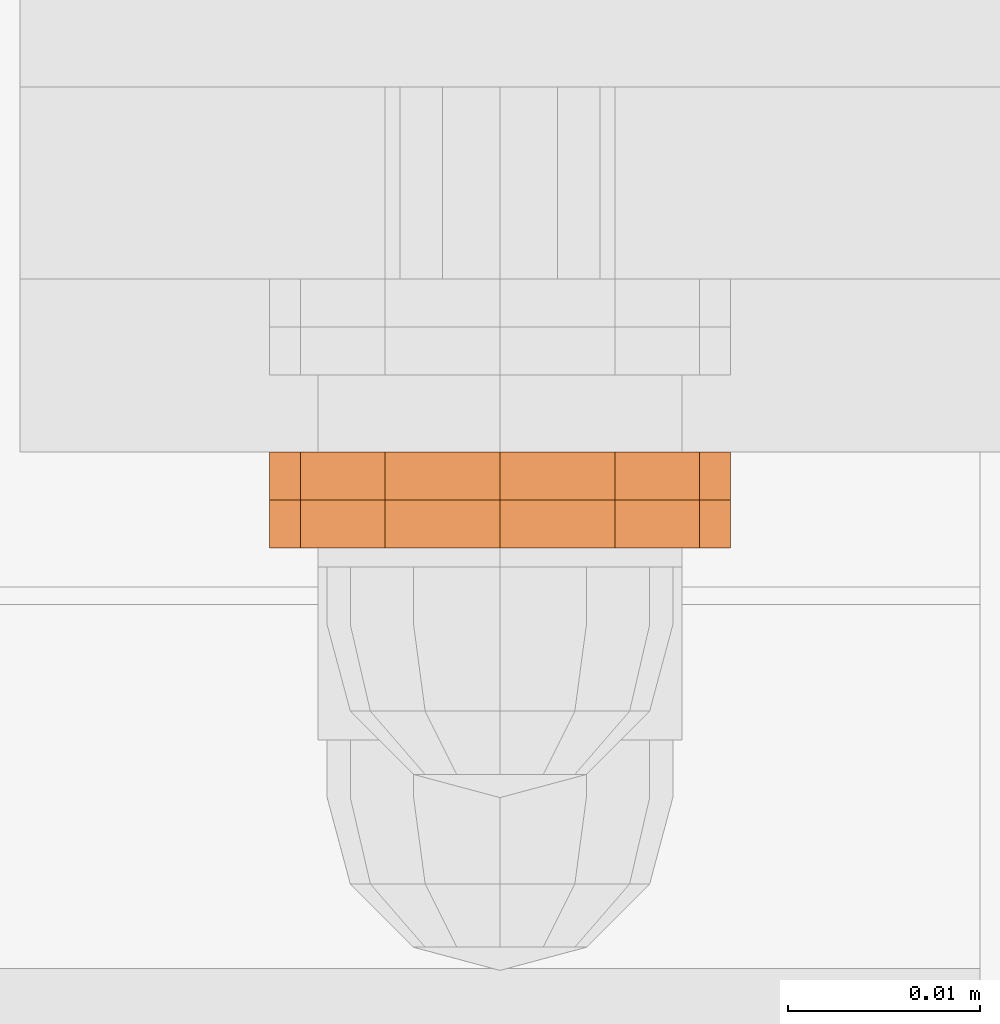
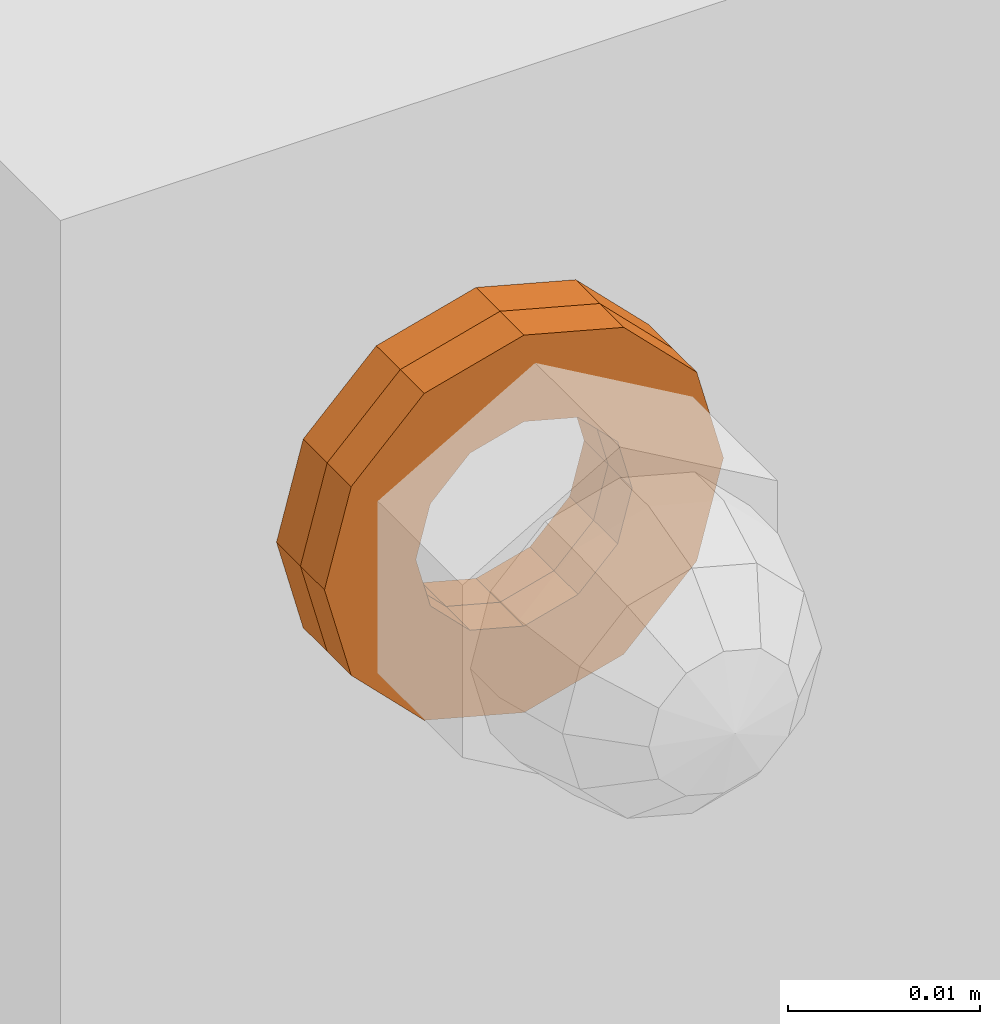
# One storey, part 154 of 162: 2 proxies.
"""IFC2X3 building model written with IfcOpenShell, lengths in millimetres."""

from ifc_helpers import new_model, entity, si_unit, converted_unit, origin_with_axes, place, context, project, spatial, faceted_brep, material, element, save


model = new_model("IFC2X3")

# Units and contexts
model_context = context("Model", 3, precision=1e-09, world=origin_with_axes())
ifc_project = project(units=[si_unit("LENGTHUNIT", "METRE", prefix="MILLI"), si_unit("AREAUNIT", "SQUARE_METRE"), si_unit("VOLUMEUNIT", "CUBIC_METRE"), converted_unit("PLANEANGLEUNIT", "DEGREE", entity("IfcPlaneAngleMeasure", 0.01745329), si_unit("PLANEANGLEUNIT", "RADIAN"), dimensions=[0, 0, 0, 0, 0, 0, 0])], contexts=[model_context])

# Site, building, storey
site_placement = place(None, origin_with_axes())
site = spatial("IfcSite", under=ifc_project, at=site_placement, Name="Hermannstra?e 1a, 60318 Frankfurt", CompositionType="ELEMENT")
building_placement = place(site_placement, origin_with_axes())
building = spatial("IfcBuilding", under=site, at=building_placement, Name="Struktur 1", CompositionType="ELEMENT")
storey_placement = place(building_placement, origin_with_axes())
storey = spatial("IfcBuildingStorey", under=building, at=storey_placement, Name="Default Storey", CompositionType="ELEMENT", Elevation=0.0)

# Proxies
ifc_material_1 = material(Name="A4")
proxy_1_placement = place(None, origin_with_axes())
element("IfcBuildingElementProxy", 1, at=proxy_1_placement, inside=storey, material=ifc_material_1, ObjectType="-", context=model_context, shape_type="Brep", body=[
    faceted_brep([(5437.917767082, 2705.610081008, 15355.999), (5437.917767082, 2708.110081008, 15355.999), (5442.310071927, 2708.110081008, 15351.606695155), (5442.310071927, 2705.610081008, 15351.606695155), (5448.310071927, 2705.610081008, 15349.999), (5454.310071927, 2705.610081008, 15351.606695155), (5458.702376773, 2705.610081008, 15355.999), (5460.310071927, 2705.610081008, 15361.999), (5458.702376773, 2705.610081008, 15367.999), (5454.310071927, 2705.610081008, 15372.391304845), (5448.310071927, 2705.610081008, 15373.999), (5442.310071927, 2705.610081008, 15372.391304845), (5437.917767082, 2705.610081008, 15367.999), (5436.310071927, 2705.610081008, 15361.999), (5451.560071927, 2705.610081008, 15356.369834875), (5448.310071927, 2705.610081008, 15355.499), (5445.060071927, 2705.610081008, 15356.369834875), (5442.680906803, 2705.610081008, 15358.749), (5441.810071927, 2705.610081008, 15361.999), (5442.680906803, 2705.610081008, 15365.249), (5445.060071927, 2705.610081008, 15367.628165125), (5448.310071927, 2705.610081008, 15368.499), (5451.560071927, 2705.610081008, 15367.628165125), (5453.939237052, 2705.610081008, 15365.249), (5454.810071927, 2705.610081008, 15361.999), (5453.939237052, 2705.610081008, 15358.749), (5436.310071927, 2708.110081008, 15361.999), (5437.917767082, 2708.110081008, 15367.999), (5442.310071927, 2708.110081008, 15372.391304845), (5448.310071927, 2708.110081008, 15373.999), (5454.310071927, 2708.110081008, 15372.391304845), (5458.702376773, 2708.110081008, 15367.999), (5460.310071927, 2708.110081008, 15361.999), (5458.702376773, 2708.110081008, 15355.999), (5454.310071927, 2708.110081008, 15351.606695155), (5448.310071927, 2708.110081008, 15349.999), (5441.810071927, 2708.110081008, 15361.999), (5442.680906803, 2708.110081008, 15358.749), (5445.060071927, 2708.110081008, 15356.369834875), (5448.310071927, 2708.110081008, 15355.499), (5451.560071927, 2708.110081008, 15356.369834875), (5453.939237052, 2708.110081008, 15358.749), (5454.810071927, 2708.110081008, 15361.999), (5453.939237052, 2708.110081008, 15365.249), (5451.560071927, 2708.110081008, 15367.628165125), (5448.310071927, 2708.110081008, 15368.499), (5445.060071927, 2708.110081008, 15367.628165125), (5442.680906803, 2708.110081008, 15365.249)], [[[0, 1, 2, 3]], [[3, 4, 5, 6, 7, 8, 9, 10, 11, 12, 13, 0], [14, 15, 16, 17, 18, 19, 20, 21, 22, 23, 24, 25]], [[1, 26, 27, 28, 29, 30, 31, 32, 33, 34, 35, 2], [36, 37, 38, 39, 40, 41, 42, 43, 44, 45, 46, 47]], [[37, 17, 16, 38]], [[1, 0, 13, 26]], [[17, 37, 36, 18]], [[38, 16, 15, 39]], [[3, 2, 35, 4]], [[26, 13, 12, 27]], [[18, 36, 47, 19]], [[39, 15, 14, 40]], [[4, 35, 34, 5]], [[27, 12, 11, 28]], [[19, 47, 46, 20]], [[40, 14, 25, 41]], [[5, 34, 33, 6]], [[24, 42, 41, 25]], [[28, 11, 10, 29]], [[20, 46, 45, 21]], [[23, 43, 42, 24]], [[6, 33, 32, 7]], [[44, 22, 21, 45]], [[43, 23, 22, 44]], [[29, 10, 9, 30]], [[7, 32, 31, 8]], [[30, 9, 8, 31]]]),
])
ifc_material_2 = material(Name="Kunststoff")
proxy_2_placement = place(None, origin_with_axes())
element("IfcBuildingElementProxy", 2, at=proxy_2_placement, inside=storey, material=ifc_material_2, ObjectType="-", context=model_context, shape_type="Brep", body=[
    faceted_brep([(5458.702376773, 2708.110081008, 15355.999), (5458.702376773, 2710.610081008, 15355.999), (5460.310071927, 2710.610081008, 15361.999), (5460.310071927, 2708.110081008, 15361.999), (5454.310071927, 2710.610081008, 15351.606695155), (5448.310071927, 2710.610081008, 15349.999), (5442.310071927, 2710.610081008, 15351.606695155), (5437.917767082, 2710.610081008, 15355.999), (5436.310071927, 2710.610081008, 15361.999), (5437.917767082, 2710.610081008, 15367.999), (5442.310071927, 2710.610081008, 15372.391304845), (5448.310071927, 2710.610081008, 15373.999), (5454.310071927, 2710.610081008, 15372.391304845), (5458.702376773, 2710.610081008, 15367.999), (5451.560071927, 2710.610081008, 15356.369834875), (5453.939237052, 2710.610081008, 15358.749), (5454.810071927, 2710.610081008, 15361.999), (5453.939237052, 2710.610081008, 15365.249), (5451.560071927, 2710.610081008, 15367.628165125), (5448.310071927, 2710.610081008, 15368.499), (5445.060071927, 2710.610081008, 15367.628165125), (5442.680906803, 2710.610081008, 15365.249), (5441.810071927, 2710.610081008, 15361.999), (5442.680906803, 2710.610081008, 15358.749), (5445.060071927, 2710.610081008, 15356.369834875), (5448.310071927, 2710.610081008, 15355.499), (5454.810071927, 2708.110081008, 15361.999), (5453.939237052, 2708.110081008, 15358.749), (5454.310071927, 2708.110081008, 15351.606695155), (5458.702376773, 2708.110081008, 15367.999), (5454.310071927, 2708.110081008, 15372.391304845), (5448.310071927, 2708.110081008, 15373.999), (5442.310071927, 2708.110081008, 15372.391304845), (5437.917767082, 2708.110081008, 15367.999), (5436.310071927, 2708.110081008, 15361.999), (5437.917767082, 2708.110081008, 15355.999), (5442.310071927, 2708.110081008, 15351.606695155), (5448.310071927, 2708.110081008, 15349.999), (5451.560071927, 2708.110081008, 15356.369834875), (5448.310071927, 2708.110081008, 15355.499), (5445.060071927, 2708.110081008, 15356.369834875), (5442.680906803, 2708.110081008, 15358.749), (5441.810071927, 2708.110081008, 15361.999), (5442.680906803, 2708.110081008, 15365.249), (5445.060071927, 2708.110081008, 15367.628165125), (5448.310071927, 2708.110081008, 15368.499), (5451.560071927, 2708.110081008, 15367.628165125), (5453.939237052, 2708.110081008, 15365.249)], [[[0, 1, 2, 3]], [[1, 4, 5, 6, 7, 8, 9, 10, 11, 12, 13, 2], [14, 15, 16, 17, 18, 19, 20, 21, 22, 23, 24, 25]], [[26, 16, 15, 27]], [[28, 0, 3, 29, 30, 31, 32, 33, 34, 35, 36, 37], [26, 27, 38, 39, 40, 41, 42, 43, 44, 45, 46, 47]], [[1, 0, 28, 4]], [[16, 26, 47, 17]], [[3, 2, 13, 29]], [[27, 15, 14, 38]], [[4, 28, 37, 5]], [[17, 47, 46, 18]], [[29, 13, 12, 30]], [[38, 14, 25, 39]], [[18, 46, 45, 19]], [[5, 37, 36, 6]], [[39, 25, 24, 40]], [[30, 12, 11, 31]], [[19, 45, 44, 20]], [[6, 36, 35, 7]], [[40, 24, 23, 41]], [[31, 11, 10, 32]], [[20, 44, 43, 21]], [[7, 35, 34, 8]], [[41, 23, 22, 42]], [[32, 10, 9, 33]], [[21, 43, 42, 22]], [[8, 34, 33, 9]]]),
])

save(model, "model.ifc")
